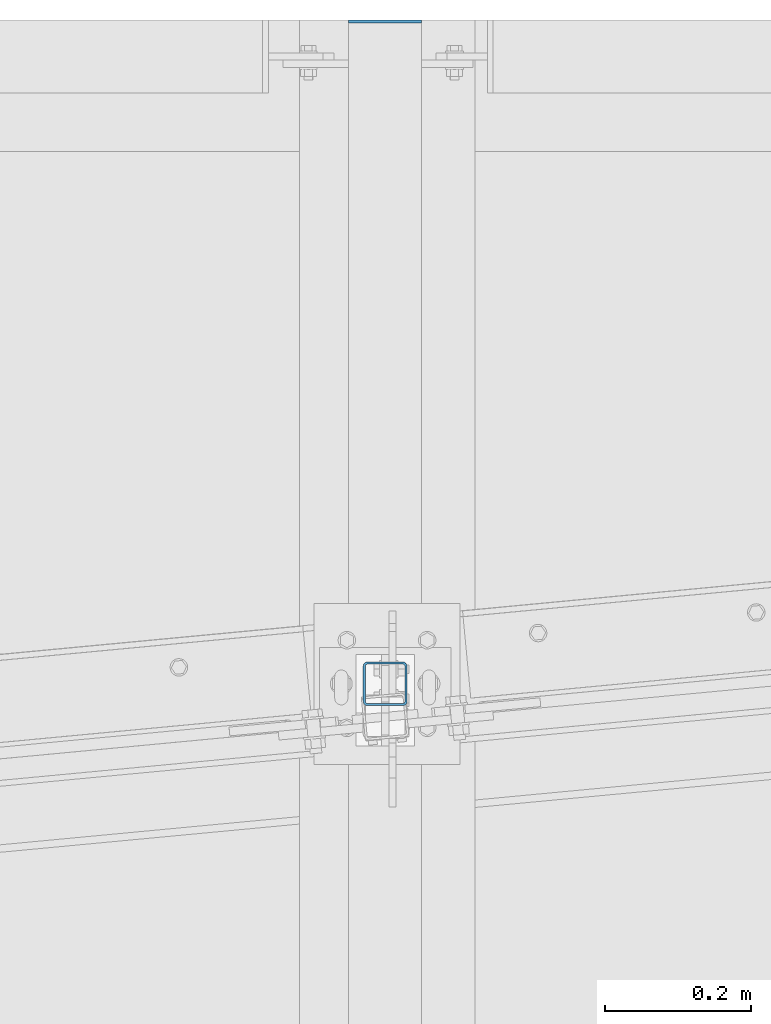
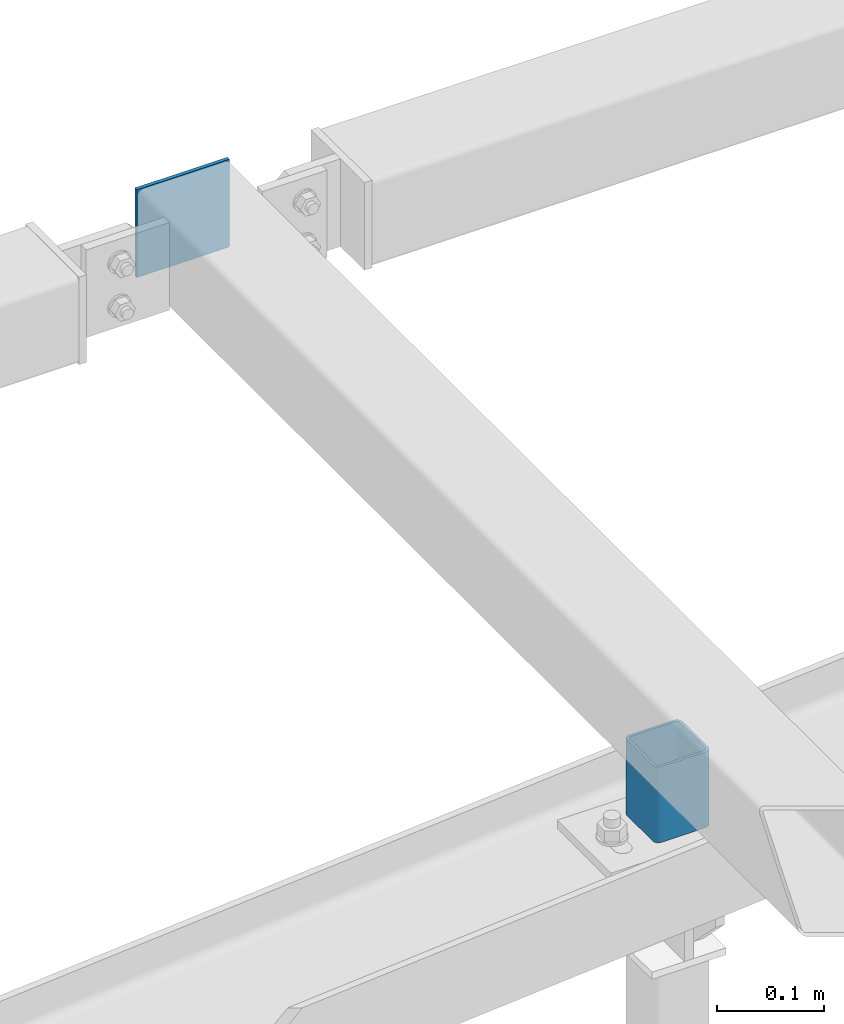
# One storey, part 88 of 271: 2 beams, 1 element without a shape of its own.
"""IFC2X3 building model written with IfcOpenShell, lengths in millimetres."""

from ifc_helpers import new_model, si_unit, frame, origin_with_axes, origin_2d_with_axis, place, context, subcontext, project, spatial, rectangle, hollow_rectangle, extrude, clip, halfspace, material, type_object, element, aggregate, save


model = new_model("IFC2X3")

# Units and contexts
model_context = context("Model", 3, precision=1e-05, world=origin_with_axes())
body_context = subcontext(model_context, "Body", "Model", "MODEL_VIEW")
ifc_project = project(units=[si_unit("LENGTHUNIT", "METRE", prefix="MILLI"), si_unit("AREAUNIT", "SQUARE_METRE"), si_unit("VOLUMEUNIT", "CUBIC_METRE"), si_unit("MASSUNIT", "GRAM", prefix="KILO"), si_unit("TIMEUNIT", "SECOND"), si_unit("PLANEANGLEUNIT", "RADIAN"), si_unit("SOLIDANGLEUNIT", "STERADIAN"), si_unit("THERMODYNAMICTEMPERATUREUNIT", "DEGREE_CELSIUS"), si_unit("LUMINOUSINTENSITYUNIT", "LUMEN")], contexts=[model_context])

# Site, building, storey
site_placement = place(None, origin_with_axes())
site = spatial("IfcSite", under=ifc_project, at=site_placement, Name="Undefined", CompositionType="ELEMENT")
building_placement = place(site_placement, origin_with_axes())
building = spatial("IfcBuilding", under=site, at=building_placement, Name="Undefined", CompositionType="ELEMENT")
storey_placement = place(building_placement, origin_with_axes())
storey = spatial("IfcBuildingStorey", under=building, at=storey_placement, Name="Undefined", CompositionType="ELEMENT", Elevation=0.0)

# Assembly, beams
assembly_placement = place(storey_placement, origin_with_axes())
assembly = element("IfcElementAssembly", 1, at=assembly_placement, inside=storey, AssemblyPlace="NOTDEFINED", PredefinedType="RIGID_FRAME")
ifc_material = material(Name="STEEL/S355JR")
beam_type_1 = type_object("IfcBeamType", Name="SHS60*3", PredefinedType="NOTDEFINED")
beam_1_placement = place(assembly_placement, frame((9528.37568709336, 4050.32498425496, 20006.9999999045), z_axis=(0.0, 1.0, 0.0), x_axis=(0.0, 0.0, 1.0)))
beam_1 = element("IfcBeam", 2, at=beam_1_placement, type_object=beam_type_1, material=ifc_material, Name="TĘŻNIK", ObjectType="SHS60*3", context=body_context, shape_type="Clipping", body=[
    clip(extrude(hollow_rectangle(XDim=60.0, YDim=60.0, WallThickness=3.0, InnerFilletRadius=3.0, OuterFilletRadius=6.0, at=origin_2d_with_axis()), frame((97.3500000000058, 0.0, 0.0), z_axis=(-1.0, 0.0, 1.38777878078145e-17), x_axis=(0.0, -1.0, 0.0)), (0.0, 0.0, 1.0), 97.35), halfspace(frame((11.0000000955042, 0.0, -30.0), z_axis=(1.0, 0.0, 0.0), x_axis=(0.0, -1.0, 0.0)), True)),
])
beam_type_2 = type_object("IfcBeamType", Name="BL4*100", PredefinedType="NOTDEFINED")
beam_2_placement = place(assembly_placement, frame((9478.37568709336, 4957.32498425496, 20154.3499999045), z_axis=(0.0, 0.0, 1.0), x_axis=(1.0, 0.0, 0.0)))
beam_2 = element("IfcBeam", 3, at=beam_2_placement, type_object=beam_type_2, material=ifc_material, Name="BLACHA", ObjectType="BL4*100", context=body_context, shape_type="SweptSolid", body=[
    extrude(rectangle(XDim=4.0, YDim=100.0, at=origin_2d_with_axis()), frame((100.0, 0.0, 0.0), z_axis=(-1.0, 0.0, 1.38777878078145e-17), x_axis=(0.0, -1.0, 0.0)), (0.0, 0.0, 1.0), 100.0),
])
aggregate(assembly, [beam_1, beam_2])

save(model, "model.ifc")
